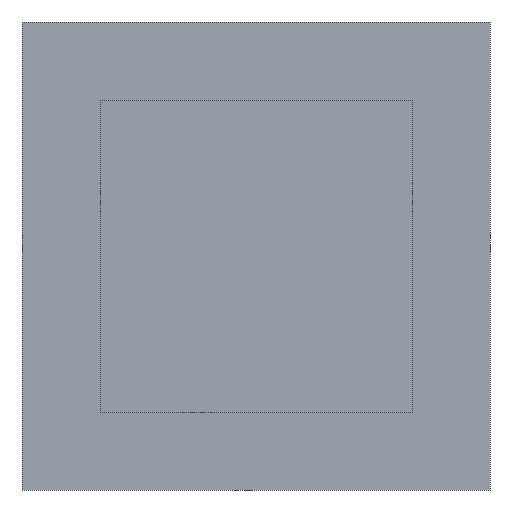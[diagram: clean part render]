
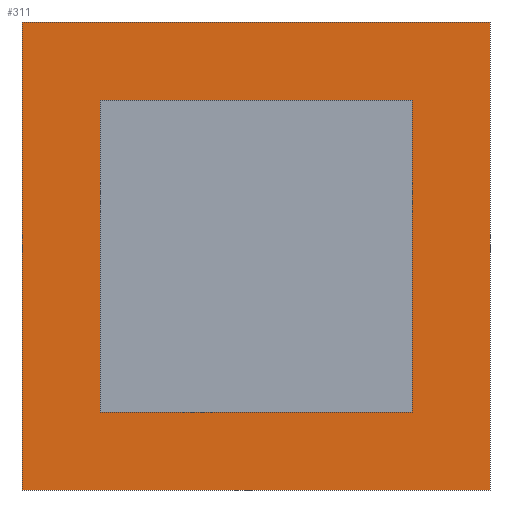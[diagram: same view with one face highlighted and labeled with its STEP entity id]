
A CAD part, front view. The second image highlights one B-rep face of the part: STEP entity #311.
In plain terms, the highlighted planar face has unit normal (0, -1, 0).
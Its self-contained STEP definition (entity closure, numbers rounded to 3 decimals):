
#24 = VERTEX_POINT('',#25);
#25 = CARTESIAN_POINT('',(122.,2.05,81.));
#32 = PLANE('',#33);
#33 = AXIS2_PLACEMENT_3D('',#34,#35,#36);
#34 = CARTESIAN_POINT('',(122.,0.,73.));
#35 = DIRECTION('',(1.,0.,0.));
#36 = DIRECTION('',(0.,0.,1.));
#44 = PLANE('',#45);
#45 = AXIS2_PLACEMENT_3D('',#46,#47,#48);
#46 = CARTESIAN_POINT('',(122.,0.,81.));
#47 = DIRECTION('',(0.,0.,1.));
#48 = DIRECTION('',(1.,0.,0.));
#85 = VERTEX_POINT('',#86);
#86 = CARTESIAN_POINT('',(122.,2.05,73.));
#100 = PLANE('',#101);
#101 = AXIS2_PLACEMENT_3D('',#102,#103,#104);
#102 = CARTESIAN_POINT('',(122.,0.,73.));
#103 = DIRECTION('',(0.,0.,1.));
#104 = DIRECTION('',(1.,0.,0.));
#112 = EDGE_CURVE('',#85,#24,#113,.T.);
#113 = SURFACE_CURVE('',#114,(#118,#125),.PCURVE_S1.);
#114 = LINE('',#115,#116);
#115 = CARTESIAN_POINT('',(122.,2.05,73.));
#116 = VECTOR('',#117,1.);
#117 = DIRECTION('',(0.,0.,1.));
#118 = PCURVE('',#32,#119);
#119 = DEFINITIONAL_REPRESENTATION('',(#120),#124);
#120 = LINE('',#121,#122);
#121 = CARTESIAN_POINT('',(0.,-2.05));
#122 = VECTOR('',#123,1.);
#123 = DIRECTION('',(1.,0.));
#124 = ( GEOMETRIC_REPRESENTATION_CONTEXT(2) 
PARAMETRIC_REPRESENTATION_CONTEXT() REPRESENTATION_CONTEXT('2D SPACE',''
  ) );
#125 = PCURVE('',#126,#131);
#126 = PLANE('',#127);
#127 = AXIS2_PLACEMENT_3D('',#128,#129,#130);
#128 = CARTESIAN_POINT('',(120.,2.05,71.));
#129 = DIRECTION('',(0.,1.,0.));
#130 = DIRECTION('',(0.,0.,1.));
#131 = DEFINITIONAL_REPRESENTATION('',(#132),#136);
#132 = LINE('',#133,#134);
#133 = CARTESIAN_POINT('',(2.,2.));
#134 = VECTOR('',#135,1.);
#135 = DIRECTION('',(1.,0.));
#136 = ( GEOMETRIC_REPRESENTATION_CONTEXT(2) 
PARAMETRIC_REPRESENTATION_CONTEXT() REPRESENTATION_CONTEXT('2D SPACE',''
  ) );
#166 = VERTEX_POINT('',#167);
#167 = CARTESIAN_POINT('',(130.,2.05,81.));
#181 = PLANE('',#182);
#182 = AXIS2_PLACEMENT_3D('',#183,#184,#185);
#183 = CARTESIAN_POINT('',(130.,0.,73.));
#184 = DIRECTION('',(1.,0.,0.));
#185 = DIRECTION('',(0.,0.,1.));
#193 = EDGE_CURVE('',#24,#166,#194,.T.);
#194 = SURFACE_CURVE('',#195,(#199,#206),.PCURVE_S1.);
#195 = LINE('',#196,#197);
#196 = CARTESIAN_POINT('',(122.,2.05,81.));
#197 = VECTOR('',#198,1.);
#198 = DIRECTION('',(1.,0.,0.));
#199 = PCURVE('',#44,#200);
#200 = DEFINITIONAL_REPRESENTATION('',(#201),#205);
#201 = LINE('',#202,#203);
#202 = CARTESIAN_POINT('',(0.,2.05));
#203 = VECTOR('',#204,1.);
#204 = DIRECTION('',(1.,0.));
#205 = ( GEOMETRIC_REPRESENTATION_CONTEXT(2) 
PARAMETRIC_REPRESENTATION_CONTEXT() REPRESENTATION_CONTEXT('2D SPACE',''
  ) );
#206 = PCURVE('',#126,#207);
#207 = DEFINITIONAL_REPRESENTATION('',(#208),#212);
#208 = LINE('',#209,#210);
#209 = CARTESIAN_POINT('',(10.,2.));
#210 = VECTOR('',#211,1.);
#211 = DIRECTION('',(0.,1.));
#212 = ( GEOMETRIC_REPRESENTATION_CONTEXT(2) 
PARAMETRIC_REPRESENTATION_CONTEXT() REPRESENTATION_CONTEXT('2D SPACE',''
  ) );
#268 = VERTEX_POINT('',#269);
#269 = CARTESIAN_POINT('',(130.,2.05,73.));
#290 = EDGE_CURVE('',#85,#268,#291,.T.);
#291 = SURFACE_CURVE('',#292,(#296,#303),.PCURVE_S1.);
#292 = LINE('',#293,#294);
#293 = CARTESIAN_POINT('',(122.,2.05,73.));
#294 = VECTOR('',#295,1.);
#295 = DIRECTION('',(1.,0.,0.));
#296 = PCURVE('',#100,#297);
#297 = DEFINITIONAL_REPRESENTATION('',(#298),#302);
#298 = LINE('',#299,#300);
#299 = CARTESIAN_POINT('',(0.,2.05));
#300 = VECTOR('',#301,1.);
#301 = DIRECTION('',(1.,0.));
#302 = ( GEOMETRIC_REPRESENTATION_CONTEXT(2) 
PARAMETRIC_REPRESENTATION_CONTEXT() REPRESENTATION_CONTEXT('2D SPACE',''
  ) );
#303 = PCURVE('',#126,#304);
#304 = DEFINITIONAL_REPRESENTATION('',(#305),#309);
#305 = LINE('',#306,#307);
#306 = CARTESIAN_POINT('',(2.,2.));
#307 = VECTOR('',#308,1.);
#308 = DIRECTION('',(0.,1.));
#309 = ( GEOMETRIC_REPRESENTATION_CONTEXT(2) 
PARAMETRIC_REPRESENTATION_CONTEXT() REPRESENTATION_CONTEXT('2D SPACE',''
  ) );
#311 = ADVANCED_FACE('',(#312,#426),#126,.F.);
#312 = FACE_BOUND('',#313,.F.);
#313 = EDGE_LOOP('',(#314,#344,#372,#400));
#314 = ORIENTED_EDGE('',*,*,#315,.F.);
#315 = EDGE_CURVE('',#316,#318,#320,.T.);
#316 = VERTEX_POINT('',#317);
#317 = CARTESIAN_POINT('',(120.,2.05,71.));
#318 = VERTEX_POINT('',#319);
#319 = CARTESIAN_POINT('',(132.,2.05,71.));
#320 = SURFACE_CURVE('',#321,(#325,#332),.PCURVE_S1.);
#321 = LINE('',#322,#323);
#322 = CARTESIAN_POINT('',(120.,2.05,71.));
#323 = VECTOR('',#324,1.);
#324 = DIRECTION('',(1.,0.,0.));
#325 = PCURVE('',#126,#326);
#326 = DEFINITIONAL_REPRESENTATION('',(#327),#331);
#327 = LINE('',#328,#329);
#328 = CARTESIAN_POINT('',(0.,0.));
#329 = VECTOR('',#330,1.);
#330 = DIRECTION('',(0.,1.));
#331 = ( GEOMETRIC_REPRESENTATION_CONTEXT(2) 
PARAMETRIC_REPRESENTATION_CONTEXT() REPRESENTATION_CONTEXT('2D SPACE',''
  ) );
#332 = PCURVE('',#333,#338);
#333 = PLANE('',#334);
#334 = AXIS2_PLACEMENT_3D('',#335,#336,#337);
#335 = CARTESIAN_POINT('',(120.,2.05,71.));
#336 = DIRECTION('',(0.,0.,1.));
#337 = DIRECTION('',(1.,0.,0.));
#338 = DEFINITIONAL_REPRESENTATION('',(#339),#343);
#339 = LINE('',#340,#341);
#340 = CARTESIAN_POINT('',(0.,0.));
#341 = VECTOR('',#342,1.);
#342 = DIRECTION('',(1.,0.));
#343 = ( GEOMETRIC_REPRESENTATION_CONTEXT(2) 
PARAMETRIC_REPRESENTATION_CONTEXT() REPRESENTATION_CONTEXT('2D SPACE',''
  ) );
#344 = ORIENTED_EDGE('',*,*,#345,.T.);
#345 = EDGE_CURVE('',#316,#346,#348,.T.);
#346 = VERTEX_POINT('',#347);
#347 = CARTESIAN_POINT('',(120.,2.05,83.));
#348 = SURFACE_CURVE('',#349,(#353,#360),.PCURVE_S1.);
#349 = LINE('',#350,#351);
#350 = CARTESIAN_POINT('',(120.,2.05,71.));
#351 = VECTOR('',#352,1.);
#352 = DIRECTION('',(0.,0.,1.));
#353 = PCURVE('',#126,#354);
#354 = DEFINITIONAL_REPRESENTATION('',(#355),#359);
#355 = LINE('',#356,#357);
#356 = CARTESIAN_POINT('',(0.,0.));
#357 = VECTOR('',#358,1.);
#358 = DIRECTION('',(1.,0.));
#359 = ( GEOMETRIC_REPRESENTATION_CONTEXT(2) 
PARAMETRIC_REPRESENTATION_CONTEXT() REPRESENTATION_CONTEXT('2D SPACE',''
  ) );
#360 = PCURVE('',#361,#366);
#361 = PLANE('',#362);
#362 = AXIS2_PLACEMENT_3D('',#363,#364,#365);
#363 = CARTESIAN_POINT('',(120.,2.05,71.));
#364 = DIRECTION('',(1.,0.,0.));
#365 = DIRECTION('',(0.,0.,1.));
#366 = DEFINITIONAL_REPRESENTATION('',(#367),#371);
#367 = LINE('',#368,#369);
#368 = CARTESIAN_POINT('',(0.,0.));
#369 = VECTOR('',#370,1.);
#370 = DIRECTION('',(1.,0.));
#371 = ( GEOMETRIC_REPRESENTATION_CONTEXT(2) 
PARAMETRIC_REPRESENTATION_CONTEXT() REPRESENTATION_CONTEXT('2D SPACE',''
  ) );
#372 = ORIENTED_EDGE('',*,*,#373,.T.);
#373 = EDGE_CURVE('',#346,#374,#376,.T.);
#374 = VERTEX_POINT('',#375);
#375 = CARTESIAN_POINT('',(132.,2.05,83.));
#376 = SURFACE_CURVE('',#377,(#381,#388),.PCURVE_S1.);
#377 = LINE('',#378,#379);
#378 = CARTESIAN_POINT('',(120.,2.05,83.));
#379 = VECTOR('',#380,1.);
#380 = DIRECTION('',(1.,0.,0.));
#381 = PCURVE('',#126,#382);
#382 = DEFINITIONAL_REPRESENTATION('',(#383),#387);
#383 = LINE('',#384,#385);
#384 = CARTESIAN_POINT('',(12.,0.));
#385 = VECTOR('',#386,1.);
#386 = DIRECTION('',(0.,1.));
#387 = ( GEOMETRIC_REPRESENTATION_CONTEXT(2) 
PARAMETRIC_REPRESENTATION_CONTEXT() REPRESENTATION_CONTEXT('2D SPACE',''
  ) );
#388 = PCURVE('',#389,#394);
#389 = PLANE('',#390);
#390 = AXIS2_PLACEMENT_3D('',#391,#392,#393);
#391 = CARTESIAN_POINT('',(120.,2.05,83.));
#392 = DIRECTION('',(0.,0.,1.));
#393 = DIRECTION('',(1.,0.,0.));
#394 = DEFINITIONAL_REPRESENTATION('',(#395),#399);
#395 = LINE('',#396,#397);
#396 = CARTESIAN_POINT('',(0.,0.));
#397 = VECTOR('',#398,1.);
#398 = DIRECTION('',(1.,0.));
#399 = ( GEOMETRIC_REPRESENTATION_CONTEXT(2) 
PARAMETRIC_REPRESENTATION_CONTEXT() REPRESENTATION_CONTEXT('2D SPACE',''
  ) );
#400 = ORIENTED_EDGE('',*,*,#401,.F.);
#401 = EDGE_CURVE('',#318,#374,#402,.T.);
#402 = SURFACE_CURVE('',#403,(#407,#414),.PCURVE_S1.);
#403 = LINE('',#404,#405);
#404 = CARTESIAN_POINT('',(132.,2.05,71.));
#405 = VECTOR('',#406,1.);
#406 = DIRECTION('',(0.,0.,1.));
#407 = PCURVE('',#126,#408);
#408 = DEFINITIONAL_REPRESENTATION('',(#409),#413);
#409 = LINE('',#410,#411);
#410 = CARTESIAN_POINT('',(0.,12.));
#411 = VECTOR('',#412,1.);
#412 = DIRECTION('',(1.,0.));
#413 = ( GEOMETRIC_REPRESENTATION_CONTEXT(2) 
PARAMETRIC_REPRESENTATION_CONTEXT() REPRESENTATION_CONTEXT('2D SPACE',''
  ) );
#414 = PCURVE('',#415,#420);
#415 = PLANE('',#416);
#416 = AXIS2_PLACEMENT_3D('',#417,#418,#419);
#417 = CARTESIAN_POINT('',(132.,2.05,71.));
#418 = DIRECTION('',(1.,0.,0.));
#419 = DIRECTION('',(0.,0.,1.));
#420 = DEFINITIONAL_REPRESENTATION('',(#421),#425);
#421 = LINE('',#422,#423);
#422 = CARTESIAN_POINT('',(0.,0.));
#423 = VECTOR('',#424,1.);
#424 = DIRECTION('',(1.,0.));
#425 = ( GEOMETRIC_REPRESENTATION_CONTEXT(2) 
PARAMETRIC_REPRESENTATION_CONTEXT() REPRESENTATION_CONTEXT('2D SPACE',''
  ) );
#426 = FACE_BOUND('',#427,.F.);
#427 = EDGE_LOOP('',(#428,#429,#430,#431));
#428 = ORIENTED_EDGE('',*,*,#193,.F.);
#429 = ORIENTED_EDGE('',*,*,#112,.F.);
#430 = ORIENTED_EDGE('',*,*,#290,.T.);
#431 = ORIENTED_EDGE('',*,*,#432,.T.);
#432 = EDGE_CURVE('',#268,#166,#433,.T.);
#433 = SURFACE_CURVE('',#434,(#438,#445),.PCURVE_S1.);
#434 = LINE('',#435,#436);
#435 = CARTESIAN_POINT('',(130.,2.05,73.));
#436 = VECTOR('',#437,1.);
#437 = DIRECTION('',(0.,0.,1.));
#438 = PCURVE('',#126,#439);
#439 = DEFINITIONAL_REPRESENTATION('',(#440),#444);
#440 = LINE('',#441,#442);
#441 = CARTESIAN_POINT('',(2.,10.));
#442 = VECTOR('',#443,1.);
#443 = DIRECTION('',(1.,0.));
#444 = ( GEOMETRIC_REPRESENTATION_CONTEXT(2) 
PARAMETRIC_REPRESENTATION_CONTEXT() REPRESENTATION_CONTEXT('2D SPACE',''
  ) );
#445 = PCURVE('',#181,#446);
#446 = DEFINITIONAL_REPRESENTATION('',(#447),#451);
#447 = LINE('',#448,#449);
#448 = CARTESIAN_POINT('',(0.,-2.05));
#449 = VECTOR('',#450,1.);
#450 = DIRECTION('',(1.,0.));
#451 = ( GEOMETRIC_REPRESENTATION_CONTEXT(2) 
PARAMETRIC_REPRESENTATION_CONTEXT() REPRESENTATION_CONTEXT('2D SPACE',''
  ) );
